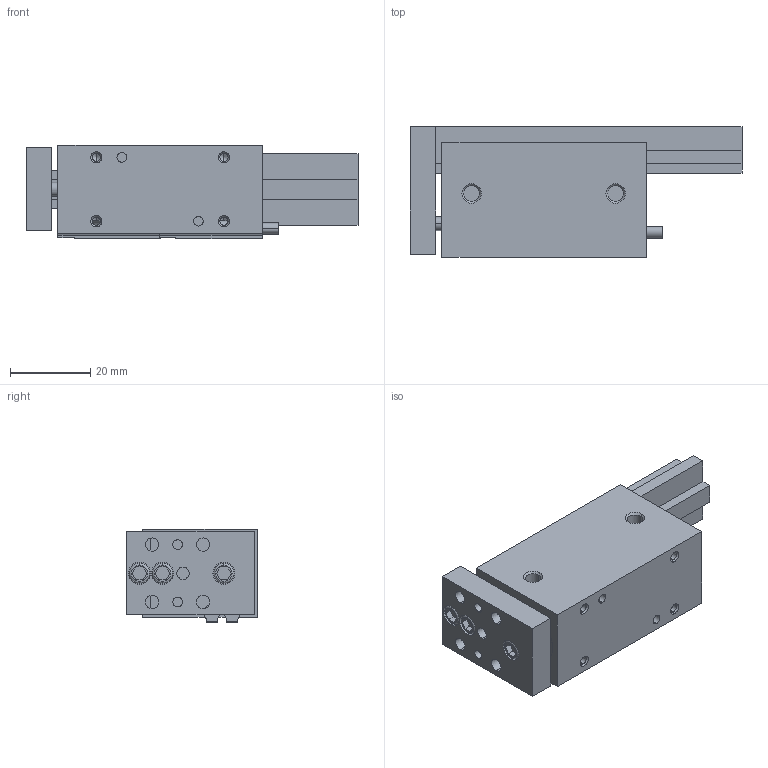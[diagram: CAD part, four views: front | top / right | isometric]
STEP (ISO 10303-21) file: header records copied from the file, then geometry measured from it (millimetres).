
FILE_DESCRIPTION (( 'STEP AP203' ), '1' );
FILE_NAME ('AGMS-1-2 RETRACTED in MM.STEP', '2014-11-06T15:04:19', ( 'setup' ), ( '' ), 'SwSTEP 2.0', 'SolidWorks 2013', '' );
FILE_SCHEMA (( 'CONFIG_CONTROL_DESIGN' ));
Length unit declared in the file: millimetre
Products named in the file (7): AGMS-1-2 CUSHION; AGMS-1-2 RAIL; AGMS-1-2 TOOL PLATE; AGMS-1-2 PROD; AGMS-1-2 SENSOR; AGMS-1-2 RETRACTED in MM; AGMS-1-2 BODY
Assembly tree (7 placements, depth 2):
  AGMS-1-2 RETRACTED in MM
    AGMS-1-2 BODY
    AGMS-1-2 CUSHION
    AGMS-1-2 RAIL
    AGMS-1-2 TOOL PLATE
    AGMS-1-2 PROD
    AGMS-1-2 SENSOR  x2
Bounding box: 82.55 x 32.51 x 23.2 mm (x, y, z)
Volume: 39272.5 mm3; surface area: 18497 mm2
Topology: 7 solids, 7 shells, 293 faces, 679 edges, 428 vertices
Faces by surface type: plane 127, cylinder 112, cone 46, torus 8
Entity records: 8422 total; most frequent: CARTESIAN_POINT 1399, DIRECTION 1397, ORIENTED_EDGE 1212, EDGE_CURVE 606, AXIS2_PLACEMENT_3D 526, VERTEX_POINT 388, VECTOR 345, LINE 345
